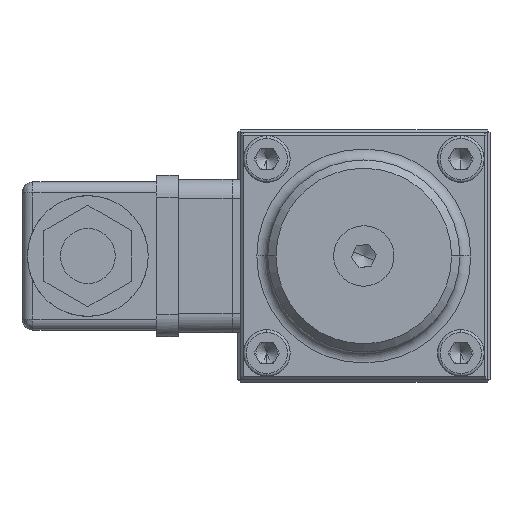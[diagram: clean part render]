
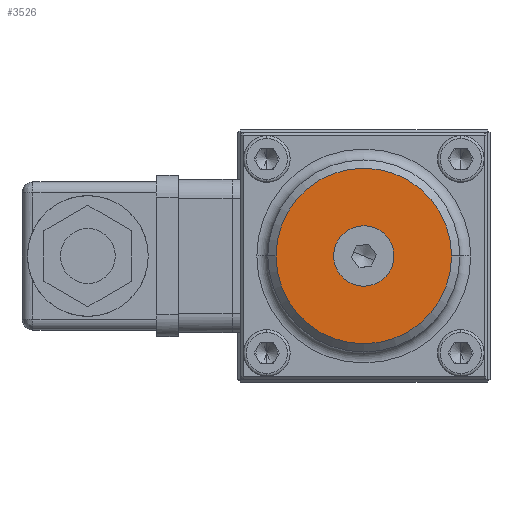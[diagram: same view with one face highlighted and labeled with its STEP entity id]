
A CAD part, left-side view. The second image highlights one B-rep face of the part: STEP entity #3526.
In plain terms, the highlighted planar face has unit normal (-1, 0, 0).
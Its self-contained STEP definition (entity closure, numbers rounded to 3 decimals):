
#130 = DIRECTION ( 'NONE',  ( -1., 0., 0. ) ) ;
#223 = DIRECTION ( 'NONE',  ( 0., 0., 1. ) ) ;
#811 = AXIS2_PLACEMENT_3D ( 'NONE', #6806, #11543, #15871 ) ;
#1291 = VERTEX_POINT ( 'NONE', #6132 ) ;
#2831 = ORIENTED_EDGE ( 'NONE', *, *, #8774, .T. ) ;
#2912 = EDGE_CURVE ( 'NONE', #8714, #1291, #18930, .T. ) ;
#3032 = EDGE_LOOP ( 'NONE', ( #12755, #15509 ) ) ;
#3062 = CIRCLE ( 'NONE', #811, 5.5 ) ;
#3075 = AXIS2_PLACEMENT_3D ( 'NONE', #4765, #130, #18531 ) ;
#3351 = DIRECTION ( 'NONE',  ( -1., 0., 0. ) ) ;
#3372 = DIRECTION ( 'NONE',  ( 0., 0., 1. ) ) ;
#3526 = ADVANCED_FACE ( 'NONE', ( #14082, #9121 ), #16753, .T. ) ;
#4652 = AXIS2_PLACEMENT_3D ( 'NONE', #10824, #18260, #223 ) ;
#4765 = CARTESIAN_POINT ( 'NONE',  ( -89.3, 0., 0. ) ) ;
#4953 = VERTEX_POINT ( 'NONE', #8613 ) ;
#5543 = ORIENTED_EDGE ( 'NONE', *, *, #14669, .T. ) ;
#5631 = VERTEX_POINT ( 'NONE', #10378 ) ;
#6132 = CARTESIAN_POINT ( 'NONE',  ( -89.3, -5.083, -2.1 ) ) ;
#6806 = CARTESIAN_POINT ( 'NONE',  ( -89.3, 0., 0. ) ) ;
#8613 = CARTESIAN_POINT ( 'NONE',  ( -89.3, 16., 0. ) ) ;
#8714 = VERTEX_POINT ( 'NONE', #14248 ) ;
#8774 = EDGE_CURVE ( 'NONE', #4953, #5631, #18669, .T. ) ;
#9121 = FACE_BOUND ( 'NONE', #3032, .T. ) ;
#10378 = CARTESIAN_POINT ( 'NONE',  ( -89.3, -16., 0. ) ) ;
#10824 = CARTESIAN_POINT ( 'NONE',  ( -89.3, 22.5, -22.5 ) ) ;
#11543 = DIRECTION ( 'NONE',  ( -1., 0., 0. ) ) ;
#12408 = CARTESIAN_POINT ( 'NONE',  ( -89.3, 0., 0. ) ) ;
#12755 = ORIENTED_EDGE ( 'NONE', *, *, #17319, .F. ) ;
#13427 = AXIS2_PLACEMENT_3D ( 'NONE', #12408, #18525, #3372 ) ;
#13522 = EDGE_LOOP ( 'NONE', ( #2831, #5543 ) ) ;
#14082 = FACE_OUTER_BOUND ( 'NONE', #13522, .T. ) ;
#14248 = CARTESIAN_POINT ( 'NONE',  ( -89.3, 5.083, 2.1 ) ) ;
#14669 = EDGE_CURVE ( 'NONE', #5631, #4953, #19071, .T. ) ;
#15509 = ORIENTED_EDGE ( 'NONE', *, *, #2912, .F. ) ;
#15871 = DIRECTION ( 'NONE',  ( 0., -0.924, -0.382 ) ) ;
#16753 = PLANE ( 'NONE',  #4652 ) ;
#17006 = CARTESIAN_POINT ( 'NONE',  ( -89.3, 0., 0. ) ) ;
#17218 = DIRECTION ( 'NONE',  ( 0., 0., 1. ) ) ;
#17319 = EDGE_CURVE ( 'NONE', #1291, #8714, #3062, .T. ) ;
#17754 = AXIS2_PLACEMENT_3D ( 'NONE', #17006, #3351, #17218 ) ;
#18260 = DIRECTION ( 'NONE',  ( -1., 0., 0. ) ) ;
#18525 = DIRECTION ( 'NONE',  ( -1., 0., 0. ) ) ;
#18531 = DIRECTION ( 'NONE',  ( 0., -0.924, -0.382 ) ) ;
#18669 = CIRCLE ( 'NONE', #17754, 16. ) ;
#18930 = CIRCLE ( 'NONE', #3075, 5.5 ) ;
#19071 = CIRCLE ( 'NONE', #13427, 16. ) ;
